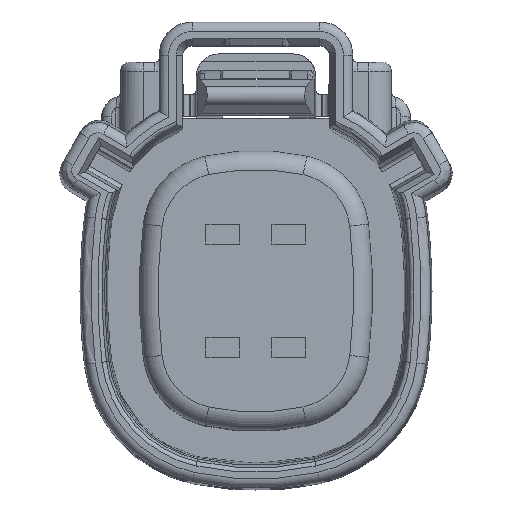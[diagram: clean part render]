
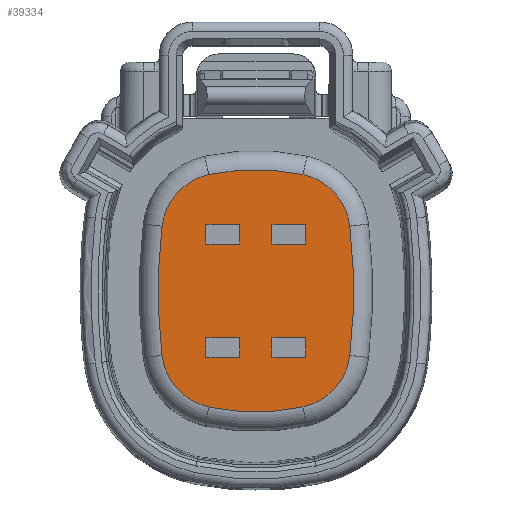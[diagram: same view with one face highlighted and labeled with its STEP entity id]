
A CAD part, top view. The second image highlights one B-rep face of the part: STEP entity #39334.
In plain terms, the highlighted planar face has unit normal (0, 0, 1).
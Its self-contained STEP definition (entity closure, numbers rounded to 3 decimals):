
#15254=CARTESIAN_POINT('',(-1.821,3.035,1.25));
#15255=DIRECTION('',(0.,0.,1.));
#15256=DIRECTION('',(-0.213,0.977,0.));
#15257=AXIS2_PLACEMENT_3D('',#15254,#15255,#15256);
#15259=CARTESIAN_POINT('',(-0.005,-5.279,1.25));
#15260=DIRECTION('',(0.,0.,1.));
#15261=DIRECTION('',(0.213,0.977,0.));
#15262=AXIS2_PLACEMENT_3D('',#15259,#15260,#15261);
#15264=CARTESIAN_POINT('',(1.81,3.035,1.25));
#15265=DIRECTION('',(0.,0.,1.));
#15266=DIRECTION('',(0.993,0.117,0.));
#15267=AXIS2_PLACEMENT_3D('',#15264,#15265,#15266);
#15269=CARTESIAN_POINT('',(-24.01,-0.014,1.25));
#15270=DIRECTION('',(0.,0.,1.));
#15271=DIRECTION('',(0.993,-0.117,0.));
#15272=AXIS2_PLACEMENT_3D('',#15269,#15270,#15271);
#15274=CARTESIAN_POINT('',(1.81,-3.063,1.25));
#15275=DIRECTION('',(0.,0.,1.));
#15276=DIRECTION('',(0.213,-0.977,0.));
#15277=AXIS2_PLACEMENT_3D('',#15274,#15275,#15276);
#15279=CARTESIAN_POINT('',(-0.005,5.251,1.25));
#15280=DIRECTION('',(0.,0.,1.));
#15281=DIRECTION('',(-0.213,-0.977,0.));
#15282=AXIS2_PLACEMENT_3D('',#15279,#15280,#15281);
#15284=CARTESIAN_POINT('',(-1.821,-3.063,1.25));
#15285=DIRECTION('',(0.,0.,1.));
#15286=DIRECTION('',(-0.993,-0.117,0.));
#15287=AXIS2_PLACEMENT_3D('',#15284,#15285,#15286);
#15289=CARTESIAN_POINT('',(24.,-0.014,1.25));
#15290=DIRECTION('',(0.,0.,1.));
#15291=DIRECTION('',(-0.993,0.117,0.));
#15292=AXIS2_PLACEMENT_3D('',#15289,#15290,#15291);
#15298=DIRECTION('',(0.,1.,0.));
#15299=VECTOR('',#15298,1.05);
#15300=CARTESIAN_POINT('',(-2.655,-3.539,1.25));
#15301=LINE('',#15300,#15299);
#15310=DIRECTION('',(1.,0.,0.));
#15311=VECTOR('',#15310,1.8);
#15312=CARTESIAN_POINT('',(-2.655,-2.489,1.25));
#15313=LINE('',#15312,#15311);
#15314=DIRECTION('',(0.,-1.,0.));
#15315=VECTOR('',#15314,1.05);
#15316=CARTESIAN_POINT('',(-0.855,-2.489,1.25));
#15317=LINE('',#15316,#15315);
#15322=DIRECTION('',(-1.,0.,0.));
#15323=VECTOR('',#15322,1.8);
#15324=CARTESIAN_POINT('',(-0.855,-3.539,1.25));
#15325=LINE('',#15324,#15323);
#15350=DIRECTION('',(0.,-1.,0.));
#15351=VECTOR('',#15350,1.05);
#15352=CARTESIAN_POINT('',(-0.855,3.511,1.25));
#15353=LINE('',#15352,#15351);
#15354=DIRECTION('',(-1.,0.,0.));
#15355=VECTOR('',#15354,1.8);
#15356=CARTESIAN_POINT('',(-0.855,2.461,1.25));
#15357=LINE('',#15356,#15355);
#15366=DIRECTION('',(0.,1.,0.));
#15367=VECTOR('',#15366,1.05);
#15368=CARTESIAN_POINT('',(-2.655,2.461,1.25));
#15369=LINE('',#15368,#15367);
#15370=DIRECTION('',(1.,0.,0.));
#15371=VECTOR('',#15370,1.8);
#15372=CARTESIAN_POINT('',(-2.655,3.511,1.25));
#15373=LINE('',#15372,#15371);
#15394=DIRECTION('',(-1.,0.,0.));
#15395=VECTOR('',#15394,1.8);
#15396=CARTESIAN_POINT('',(2.645,2.461,1.25));
#15397=LINE('',#15396,#15395);
#15406=DIRECTION('',(0.,1.,0.));
#15407=VECTOR('',#15406,1.05);
#15408=CARTESIAN_POINT('',(0.845,2.461,1.25));
#15409=LINE('',#15408,#15407);
#15414=DIRECTION('',(1.,0.,0.));
#15415=VECTOR('',#15414,1.8);
#15416=CARTESIAN_POINT('',(0.845,3.511,1.25));
#15417=LINE('',#15416,#15415);
#15418=DIRECTION('',(0.,-1.,0.));
#15419=VECTOR('',#15418,1.05);
#15420=CARTESIAN_POINT('',(2.645,3.511,1.25));
#15421=LINE('',#15420,#15419);
#15442=DIRECTION('',(-1.,0.,0.));
#15443=VECTOR('',#15442,1.8);
#15444=CARTESIAN_POINT('',(2.645,-3.539,1.25));
#15445=LINE('',#15444,#15443);
#15454=DIRECTION('',(0.,1.,0.));
#15455=VECTOR('',#15454,1.05);
#15456=CARTESIAN_POINT('',(0.845,-3.539,1.25));
#15457=LINE('',#15456,#15455);
#15458=DIRECTION('',(1.,0.,0.));
#15459=VECTOR('',#15458,1.8);
#15460=CARTESIAN_POINT('',(0.845,-2.489,1.25));
#15461=LINE('',#15460,#15459);
#15466=DIRECTION('',(0.,-1.,0.));
#15467=VECTOR('',#15466,1.05);
#15468=CARTESIAN_POINT('',(2.645,-2.489,1.25));
#15469=LINE('',#15468,#15467);
#18154=CARTESIAN_POINT('',(-2.655,-2.489,1.25));
#18155=CARTESIAN_POINT('',(-0.855,-2.489,1.25));
#18156=VERTEX_POINT('',#18154);
#18157=VERTEX_POINT('',#18155);
#18158=CARTESIAN_POINT('',(-0.855,-3.539,1.25));
#18159=VERTEX_POINT('',#18158);
#18160=CARTESIAN_POINT('',(-2.655,-3.539,1.25));
#18161=VERTEX_POINT('',#18160);
#18162=CARTESIAN_POINT('',(-0.855,2.461,1.25));
#18163=CARTESIAN_POINT('',(-2.655,2.461,1.25));
#18164=VERTEX_POINT('',#18162);
#18165=VERTEX_POINT('',#18163);
#18166=CARTESIAN_POINT('',(-2.655,3.511,1.25));
#18167=VERTEX_POINT('',#18166);
#18168=CARTESIAN_POINT('',(-0.855,3.511,1.25));
#18169=VERTEX_POINT('',#18168);
#18170=CARTESIAN_POINT('',(0.845,2.461,1.25));
#18171=CARTESIAN_POINT('',(0.845,3.511,1.25));
#18172=VERTEX_POINT('',#18170);
#18173=VERTEX_POINT('',#18171);
#18174=CARTESIAN_POINT('',(2.645,3.511,1.25));
#18175=VERTEX_POINT('',#18174);
#18176=CARTESIAN_POINT('',(2.645,2.461,1.25));
#18177=VERTEX_POINT('',#18176);
#18178=CARTESIAN_POINT('',(0.845,-3.539,1.25));
#18179=CARTESIAN_POINT('',(0.845,-2.489,1.25));
#18180=VERTEX_POINT('',#18178);
#18181=VERTEX_POINT('',#18179);
#18182=CARTESIAN_POINT('',(2.645,-2.489,1.25));
#18183=VERTEX_POINT('',#18182);
#18184=CARTESIAN_POINT('',(2.645,-3.539,1.25));
#18185=VERTEX_POINT('',#18184);
#19017=CARTESIAN_POINT('',(-2.499,6.141,1.25));
#19018=CARTESIAN_POINT('',(-4.979,3.408,1.25));
#19019=VERTEX_POINT('',#19017);
#19020=VERTEX_POINT('',#19018);
#19025=CARTESIAN_POINT('',(-4.979,-3.436,1.25));
#19026=VERTEX_POINT('',#19025);
#19029=CARTESIAN_POINT('',(-2.499,-6.17,1.25));
#19030=VERTEX_POINT('',#19029);
#19033=CARTESIAN_POINT('',(2.489,-6.17,1.25));
#19034=VERTEX_POINT('',#19033);
#19037=CARTESIAN_POINT('',(4.968,-3.436,1.25));
#19038=VERTEX_POINT('',#19037);
#19041=CARTESIAN_POINT('',(4.968,3.408,1.25));
#19042=VERTEX_POINT('',#19041);
#19045=CARTESIAN_POINT('',(2.489,6.141,1.25));
#19046=VERTEX_POINT('',#19045);
#39272=CARTESIAN_POINT('',(-0.005,-0.014,1.25));
#39273=DIRECTION('',(0.,0.,1.));
#39274=DIRECTION('',(1.,0.,0.));
#39275=AXIS2_PLACEMENT_3D('',#39272,#39273,#39274);
#39276=PLANE('',#39275);
#39278=ORIENTED_EDGE('',*,*,#39277,.F.);
#39279=ORIENTED_EDGE('',*,*,#39262,.F.);
#39281=ORIENTED_EDGE('',*,*,#39280,.F.);
#39283=ORIENTED_EDGE('',*,*,#39282,.F.);
#39285=ORIENTED_EDGE('',*,*,#39284,.F.);
#39287=ORIENTED_EDGE('',*,*,#39286,.F.);
#39289=ORIENTED_EDGE('',*,*,#39288,.F.);
#39291=ORIENTED_EDGE('',*,*,#39290,.F.);
#39292=EDGE_LOOP('',(#39278,#39279,#39281,#39283,#39285,#39287,#39289,#39291));
#39293=FACE_OUTER_BOUND('',#39292,.F.);
#39295=ORIENTED_EDGE('',*,*,#39294,.F.);
#39297=ORIENTED_EDGE('',*,*,#39296,.F.);
#39299=ORIENTED_EDGE('',*,*,#39298,.F.);
#39301=ORIENTED_EDGE('',*,*,#39300,.F.);
#39302=EDGE_LOOP('',(#39295,#39297,#39299,#39301));
#39303=FACE_BOUND('',#39302,.F.);
#39305=ORIENTED_EDGE('',*,*,#39304,.F.);
#39307=ORIENTED_EDGE('',*,*,#39306,.F.);
#39309=ORIENTED_EDGE('',*,*,#39308,.F.);
#39311=ORIENTED_EDGE('',*,*,#39310,.F.);
#39312=EDGE_LOOP('',(#39305,#39307,#39309,#39311));
#39313=FACE_BOUND('',#39312,.F.);
#39315=ORIENTED_EDGE('',*,*,#39314,.F.);
#39317=ORIENTED_EDGE('',*,*,#39316,.F.);
#39319=ORIENTED_EDGE('',*,*,#39318,.F.);
#39321=ORIENTED_EDGE('',*,*,#39320,.F.);
#39322=EDGE_LOOP('',(#39315,#39317,#39319,#39321));
#39323=FACE_BOUND('',#39322,.F.);
#39325=ORIENTED_EDGE('',*,*,#39324,.F.);
#39327=ORIENTED_EDGE('',*,*,#39326,.F.);
#39329=ORIENTED_EDGE('',*,*,#39328,.F.);
#39331=ORIENTED_EDGE('',*,*,#39330,.F.);
#39332=EDGE_LOOP('',(#39325,#39327,#39329,#39331));
#39333=FACE_BOUND('',#39332,.F.);
#39334=ADVANCED_FACE('',(#39293,#39303,#39313,#39323,#39333),#39276,.T.);
#15258=CIRCLE('',#15257,3.18);
#15263=CIRCLE('',#15262,11.69);
#15268=CIRCLE('',#15267,3.18);
#15273=CIRCLE('',#15272,29.18);
#15278=CIRCLE('',#15277,3.18);
#15283=CIRCLE('',#15282,11.69);
#15288=CIRCLE('',#15287,3.18);
#15293=CIRCLE('',#15292,29.18);
#39262=EDGE_CURVE('',#19046,#19019,#15263,.T.);
#39277=EDGE_CURVE('',#19019,#19020,#15258,.T.);
#39280=EDGE_CURVE('',#19042,#19046,#15268,.T.);
#39282=EDGE_CURVE('',#19038,#19042,#15273,.T.);
#39284=EDGE_CURVE('',#19034,#19038,#15278,.T.);
#39286=EDGE_CURVE('',#19030,#19034,#15283,.T.);
#39288=EDGE_CURVE('',#19026,#19030,#15288,.T.);
#39290=EDGE_CURVE('',#19020,#19026,#15293,.T.);
#39294=EDGE_CURVE('',#18169,#18164,#15353,.T.);
#39296=EDGE_CURVE('',#18167,#18169,#15373,.T.);
#39298=EDGE_CURVE('',#18165,#18167,#15369,.T.);
#39300=EDGE_CURVE('',#18164,#18165,#15357,.T.);
#39304=EDGE_CURVE('',#18177,#18172,#15397,.T.);
#39306=EDGE_CURVE('',#18175,#18177,#15421,.T.);
#39308=EDGE_CURVE('',#18173,#18175,#15417,.T.);
#39310=EDGE_CURVE('',#18172,#18173,#15409,.T.);
#39314=EDGE_CURVE('',#18185,#18180,#15445,.T.);
#39316=EDGE_CURVE('',#18183,#18185,#15469,.T.);
#39318=EDGE_CURVE('',#18181,#18183,#15461,.T.);
#39320=EDGE_CURVE('',#18180,#18181,#15457,.T.);
#39324=EDGE_CURVE('',#18161,#18156,#15301,.T.);
#39326=EDGE_CURVE('',#18159,#18161,#15325,.T.);
#39328=EDGE_CURVE('',#18157,#18159,#15317,.T.);
#39330=EDGE_CURVE('',#18156,#18157,#15313,.T.);
